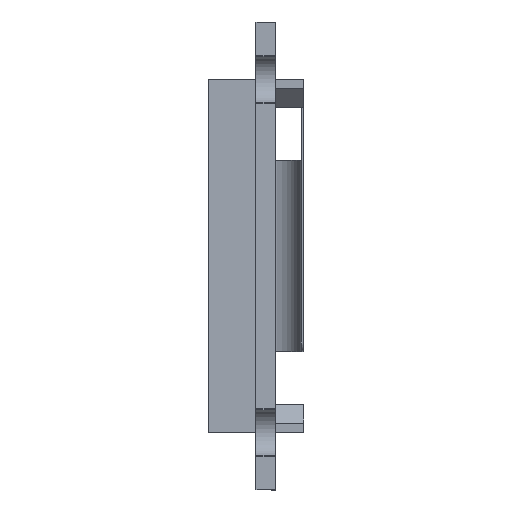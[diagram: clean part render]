
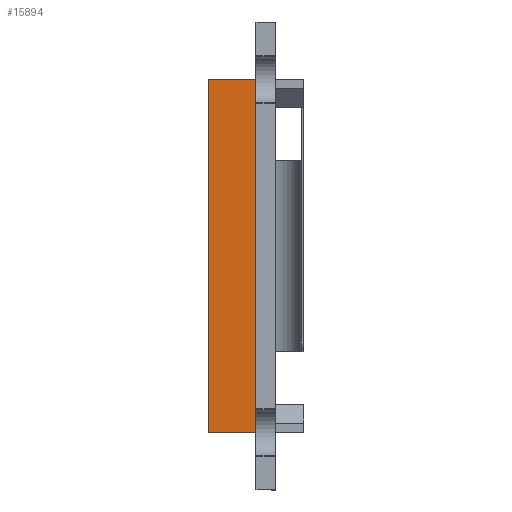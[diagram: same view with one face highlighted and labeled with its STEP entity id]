
A CAD part, left-side view. The second image highlights one B-rep face of the part: STEP entity #15894.
In plain terms, the highlighted planar face has unit normal (-1, 0, 0).
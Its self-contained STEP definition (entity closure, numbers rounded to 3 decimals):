
#66 = CARTESIAN_POINT ( 'NONE',  ( -10.268, 36.771, 54.626 ) ) ;
#916 = VERTEX_POINT ( 'NONE', #5182 ) ;
#1910 = ORIENTED_EDGE ( 'NONE', *, *, #5419, .F. ) ;
#2036 = FACE_OUTER_BOUND ( 'NONE', #2381, .T. ) ;
#2381 = EDGE_LOOP ( 'NONE', ( #6236, #1910, #7921, #4550 ) ) ;
#2447 = EDGE_CURVE ( 'NONE', #14977, #916, #6690, .T. ) ;
#2818 = CARTESIAN_POINT ( 'NONE',  ( -10.268, 36.771, 63.876 ) ) ;
#3490 = DIRECTION ( 'NONE',  ( 0., 0., -1. ) ) ;
#4550 = ORIENTED_EDGE ( 'NONE', *, *, #7015, .F. ) ;
#4618 = CARTESIAN_POINT ( 'NONE',  ( -10.268, 34.271, 63.876 ) ) ;
#5182 = CARTESIAN_POINT ( 'NONE',  ( -10.268, 36.771, 63.876 ) ) ;
#5400 = EDGE_CURVE ( 'NONE', #16580, #8143, #13582, .T. ) ;
#5419 = EDGE_CURVE ( 'NONE', #16580, #916, #12472, .T. ) ;
#5430 = CARTESIAN_POINT ( 'NONE',  ( -10.268, 36.771, 45.376 ) ) ;
#5593 = DIRECTION ( 'NONE',  ( 0., 0., 1. ) ) ;
#5850 = LINE ( 'NONE', #15379, #6065 ) ;
#5936 = DIRECTION ( 'NONE',  ( 0., 0., -1. ) ) ;
#6065 = VECTOR ( 'NONE', #5936, 1000. ) ;
#6236 = ORIENTED_EDGE ( 'NONE', *, *, #2447, .T. ) ;
#6690 = LINE ( 'NONE', #2818, #10897 ) ;
#7015 = EDGE_CURVE ( 'NONE', #14977, #8143, #5850, .T. ) ;
#7069 = CARTESIAN_POINT ( 'NONE',  ( -10.268, 34.271, 45.376 ) ) ;
#7921 = ORIENTED_EDGE ( 'NONE', *, *, #5400, .T. ) ;
#7952 = DIRECTION ( 'NONE',  ( 0., 1., 0. ) ) ;
#8143 = VERTEX_POINT ( 'NONE', #7069 ) ;
#8810 = PLANE ( 'NONE',  #12940 ) ;
#9656 = DIRECTION ( 'NONE',  ( 0., -1., 0. ) ) ;
#10897 = VECTOR ( 'NONE', #7952, 1000. ) ;
#11807 = CARTESIAN_POINT ( 'NONE',  ( -10.268, 36.771, 63.876 ) ) ;
#12472 = LINE ( 'NONE', #66, #16153 ) ;
#12940 = AXIS2_PLACEMENT_3D ( 'NONE', #11807, #14350, #3490 ) ;
#13582 = LINE ( 'NONE', #5430, #14700 ) ;
#14350 = DIRECTION ( 'NONE',  ( 1., 0., 0. ) ) ;
#14700 = VECTOR ( 'NONE', #9656, 1000. ) ;
#14977 = VERTEX_POINT ( 'NONE', #4618 ) ;
#15379 = CARTESIAN_POINT ( 'NONE',  ( -10.268, 34.271, 63.876 ) ) ;
#15894 = ADVANCED_FACE ( 'NONE', ( #2036 ), #8810, .F. ) ;
#16153 = VECTOR ( 'NONE', #5593, 1000. ) ;
#16580 = VERTEX_POINT ( 'NONE', #16749 ) ;
#16749 = CARTESIAN_POINT ( 'NONE',  ( -10.268, 36.771, 45.376 ) ) ;
